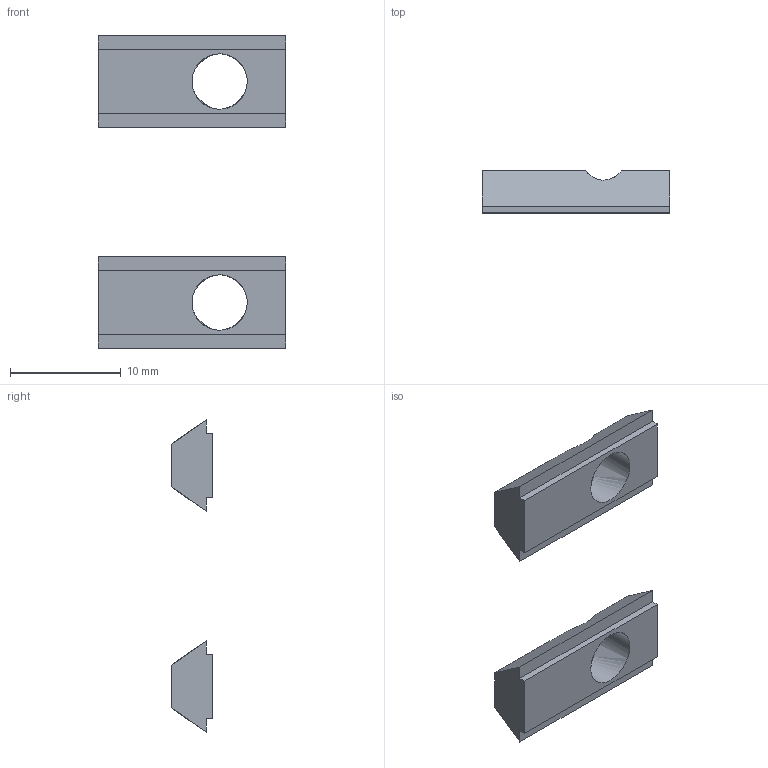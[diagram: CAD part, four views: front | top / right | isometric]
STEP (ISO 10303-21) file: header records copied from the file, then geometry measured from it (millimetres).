
FILE_DESCRIPTION(/* description */ (''),/* implementation_level */ '2;1');
FILE_NAME(/* name */ '6.y-drive#6.8#HNTPZ5-5',/* time_stamp */ '2014-12-01T20:15:59+01:00',/* author */ (''),/* organization */ (''),/* preprocessor_version */ 'ST-DEVELOPER v14',/* originating_system */ '',/* authorisation */ '');
FILE_SCHEMA (('AUTOMOTIVE_DESIGN'));
Length unit declared in the file: millimetre
Products named in the file (2): Document; nut tslot, post, M5
Assembly tree (2 placements, depth 2):
  Document
    nut tslot, post, M5  x2
Bounding box: 17 x 3.8 x 28.3 mm (x, y, z)
Volume: 630 mm3; surface area: 839 mm2
Topology: 2 solids, 2 shells, 26 faces, 72 edges, 48 vertices
Faces by surface type: plane 22, bspline 4
Entity records: 1009 total; most frequent: CARTESIAN_POINT 461, B_SPLINE_CURVE_WITH_KNOTS 100, ORIENTED_EDGE 72, PCURVE 72, DEFINITIONAL_REPRESENTATION 72, SURFACE_CURVE 36, EDGE_CURVE 36, VERTEX_POINT 24
